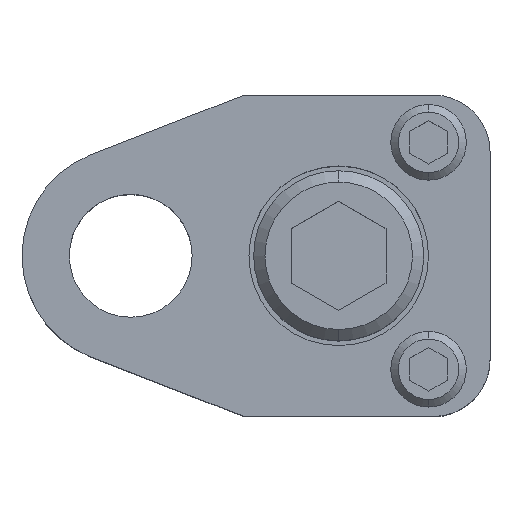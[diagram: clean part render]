
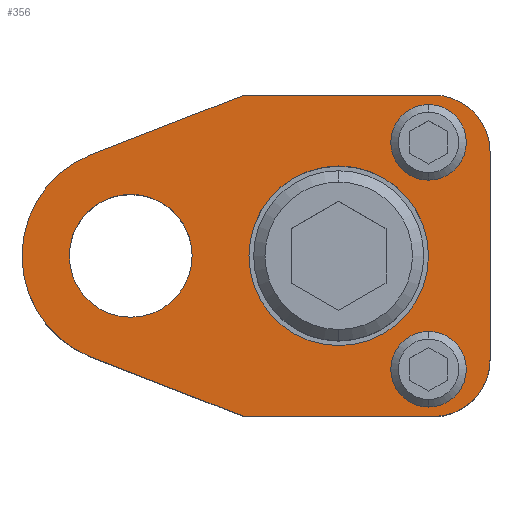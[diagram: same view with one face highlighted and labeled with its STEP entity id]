
A CAD part, top view. The second image highlights one B-rep face of the part: STEP entity #356.
In plain terms, the highlighted planar face has unit normal (0, 0, 1).
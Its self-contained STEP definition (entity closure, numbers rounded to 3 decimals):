
#178=FACE_BOUND('',#617,.T.);
#179=FACE_BOUND('',#618,.T.);
#180=FACE_BOUND('',#619,.T.);
#181=FACE_BOUND('',#620,.T.);
#182=FACE_BOUND('',#621,.T.);
#224=CIRCLE('',#1899,6.);
#226=CIRCLE('',#1904,11.5);
#229=CIRCLE('',#1910,6.);
#231=CIRCLE('',#1913,4.);
#233=CIRCLE('',#1916,4.);
#235=CIRCLE('',#1919,4.);
#237=CIRCLE('',#1922,4.);
#242=CIRCLE('',#1930,9.5);
#243=CIRCLE('',#1931,9.5);
#244=CIRCLE('',#1932,6.5);
#245=CIRCLE('',#1933,6.5);
#356=ADVANCED_FACE('',(#178,#179,#180,#181,#182),#447,.T.);
#447=PLANE('',#1934);
#617=EDGE_LOOP('',(#887,#888,#889,#890,#891,#892,#893,#894));
#618=EDGE_LOOP('',(#895,#896));
#619=EDGE_LOOP('',(#897,#898));
#620=EDGE_LOOP('',(#899,#900));
#621=EDGE_LOOP('',(#901,#902));
#887=ORIENTED_EDGE('',*,*,#1406,.T.);
#888=ORIENTED_EDGE('',*,*,#1410,.T.);
#889=ORIENTED_EDGE('',*,*,#1413,.T.);
#890=ORIENTED_EDGE('',*,*,#1416,.T.);
#891=ORIENTED_EDGE('',*,*,#1419,.T.);
#892=ORIENTED_EDGE('',*,*,#1422,.T.);
#893=ORIENTED_EDGE('',*,*,#1425,.T.);
#894=ORIENTED_EDGE('',*,*,#1428,.T.);
#895=ORIENTED_EDGE('',*,*,#1447,.F.);
#896=ORIENTED_EDGE('',*,*,#1448,.F.);
#897=ORIENTED_EDGE('',*,*,#1440,.F.);
#898=ORIENTED_EDGE('',*,*,#1437,.F.);
#899=ORIENTED_EDGE('',*,*,#1434,.F.);
#900=ORIENTED_EDGE('',*,*,#1431,.F.);
#901=ORIENTED_EDGE('',*,*,#1449,.T.);
#902=ORIENTED_EDGE('',*,*,#1450,.T.);
#1228=VERTEX_POINT('',#2773);
#1229=VERTEX_POINT('',#2775);
#1232=VERTEX_POINT('',#2782);
#1234=VERTEX_POINT('',#2788);
#1236=VERTEX_POINT('',#2794);
#1238=VERTEX_POINT('',#2800);
#1240=VERTEX_POINT('',#2806);
#1242=VERTEX_POINT('',#2812);
#1245=VERTEX_POINT('',#2823);
#1246=VERTEX_POINT('',#2825);
#1249=VERTEX_POINT('',#2835);
#1250=VERTEX_POINT('',#2837);
#1255=VERTEX_POINT('',#2856);
#1256=VERTEX_POINT('',#2857);
#1257=VERTEX_POINT('',#2860);
#1258=VERTEX_POINT('',#2861);
#1406=EDGE_CURVE('',#1229,#1228,#1632,.T.);
#1410=EDGE_CURVE('',#1228,#1232,#224,.T.);
#1413=EDGE_CURVE('',#1232,#1234,#1637,.T.);
#1416=EDGE_CURVE('',#1234,#1236,#1640,.T.);
#1419=EDGE_CURVE('',#1236,#1238,#226,.T.);
#1422=EDGE_CURVE('',#1238,#1240,#1644,.T.);
#1425=EDGE_CURVE('',#1240,#1242,#1647,.T.);
#1428=EDGE_CURVE('',#1242,#1229,#229,.T.);
#1431=EDGE_CURVE('',#1245,#1246,#231,.T.);
#1434=EDGE_CURVE('',#1246,#1245,#233,.T.);
#1437=EDGE_CURVE('',#1249,#1250,#235,.T.);
#1440=EDGE_CURVE('',#1250,#1249,#237,.T.);
#1447=EDGE_CURVE('',#1255,#1256,#242,.T.);
#1448=EDGE_CURVE('',#1256,#1255,#243,.T.);
#1449=EDGE_CURVE('',#1257,#1258,#244,.T.);
#1450=EDGE_CURVE('',#1258,#1257,#245,.T.);
#1632=LINE('',#2774,#1766);
#1637=LINE('',#2789,#1771);
#1640=LINE('',#2795,#1774);
#1644=LINE('',#2807,#1778);
#1647=LINE('',#2813,#1781);
#1766=VECTOR('',#2211,1.);
#1771=VECTOR('',#2224,1.);
#1774=VECTOR('',#2229,1.);
#1778=VECTOR('',#2241,1.);
#1781=VECTOR('',#2246,1.);
#1899=AXIS2_PLACEMENT_3D('',#2783,#2217,#2218);
#1904=AXIS2_PLACEMENT_3D('',#2801,#2234,#2235);
#1910=AXIS2_PLACEMENT_3D('',#2817,#2252,#2253);
#1913=AXIS2_PLACEMENT_3D('',#2824,#2259,#2260);
#1916=AXIS2_PLACEMENT_3D('',#2829,#2266,#2267);
#1919=AXIS2_PLACEMENT_3D('',#2836,#2273,#2274);
#1922=AXIS2_PLACEMENT_3D('',#2841,#2280,#2281);
#1930=AXIS2_PLACEMENT_3D('',#2855,#2298,#2299);
#1931=AXIS2_PLACEMENT_3D('',#2858,#2300,#2301);
#1932=AXIS2_PLACEMENT_3D('',#2859,#2302,#2303);
#1933=AXIS2_PLACEMENT_3D('',#2862,#2304,#2305);
#1934=AXIS2_PLACEMENT_3D('',#2863,#2306,#2307);
#2211=DIRECTION('',(0.,1.,0.));
#2217=DIRECTION('',(0.,0.,1.));
#2218=DIRECTION('',(-0.707,-0.707,0.));
#2224=DIRECTION('',(-1.,0.,0.));
#2229=DIRECTION('',(-0.932,-0.362,0.));
#2234=DIRECTION('',(0.,0.,1.));
#2235=DIRECTION('',(0.,1.,0.));
#2241=DIRECTION('',(0.932,-0.362,0.));
#2246=DIRECTION('',(1.,0.,0.));
#2252=DIRECTION('',(0.,0.,1.));
#2253=DIRECTION('',(-0.707,0.707,0.));
#2259=DIRECTION('',(0.,0.,1.));
#2260=DIRECTION('',(1.,0.,0.));
#2266=DIRECTION('',(0.,0.,1.));
#2267=DIRECTION('',(-1.,0.,0.));
#2273=DIRECTION('',(0.,0.,1.));
#2274=DIRECTION('',(1.,0.,0.));
#2280=DIRECTION('',(0.,0.,1.));
#2281=DIRECTION('',(-1.,0.,0.));
#2298=DIRECTION('',(0.,0.,1.));
#2299=DIRECTION('',(1.,0.,0.));
#2300=DIRECTION('',(0.,0.,1.));
#2301=DIRECTION('',(-1.,0.,0.));
#2302=DIRECTION('',(0.,0.,-1.));
#2303=DIRECTION('',(-1.,0.,0.));
#2304=DIRECTION('',(0.,0.,-1.));
#2305=DIRECTION('',(1.,0.,0.));
#2306=DIRECTION('',(0.,0.,1.));
#2307=DIRECTION('',(0.,-1.,0.));
#2773=CARTESIAN_POINT('',(38.,11.,25.));
#2774=CARTESIAN_POINT('',(38.,-11.,25.));
#2775=CARTESIAN_POINT('',(38.,-11.,25.));
#2782=CARTESIAN_POINT('',(32.,17.,25.));
#2783=CARTESIAN_POINT('',(32.,11.,25.));
#2788=CARTESIAN_POINT('',(12.,17.,25.));
#2789=CARTESIAN_POINT('',(12.,17.,25.));
#2794=CARTESIAN_POINT('',(-4.165,10.719,25.));
#2795=CARTESIAN_POINT('',(12.,17.,25.));
#2800=CARTESIAN_POINT('',(-4.165,-10.719,25.));
#2801=CARTESIAN_POINT('',(0.,0.,25.));
#2806=CARTESIAN_POINT('',(12.,-17.,25.));
#2807=CARTESIAN_POINT('',(12.,-17.,25.));
#2812=CARTESIAN_POINT('',(32.,-17.,25.));
#2813=CARTESIAN_POINT('',(12.,-17.,25.));
#2817=CARTESIAN_POINT('',(32.,-11.,25.));
#2823=CARTESIAN_POINT('',(31.5,16.,25.));
#2824=CARTESIAN_POINT('',(31.5,12.,25.));
#2825=CARTESIAN_POINT('',(31.5,8.,25.));
#2829=CARTESIAN_POINT('',(31.5,12.,25.));
#2835=CARTESIAN_POINT('',(31.5,-8.,25.));
#2836=CARTESIAN_POINT('',(31.5,-12.,25.));
#2837=CARTESIAN_POINT('',(31.5,-16.,25.));
#2841=CARTESIAN_POINT('',(31.5,-12.,25.));
#2855=CARTESIAN_POINT('',(22.,0.,25.));
#2856=CARTESIAN_POINT('',(22.,9.5,25.));
#2857=CARTESIAN_POINT('',(22.,-9.5,25.));
#2858=CARTESIAN_POINT('',(22.,0.,25.));
#2859=CARTESIAN_POINT('',(0.,0.,25.));
#2860=CARTESIAN_POINT('',(0.,6.5,25.));
#2861=CARTESIAN_POINT('',(0.,-6.5,25.));
#2862=CARTESIAN_POINT('',(0.,0.,25.));
#2863=CARTESIAN_POINT('',(38.,-11.,25.));
